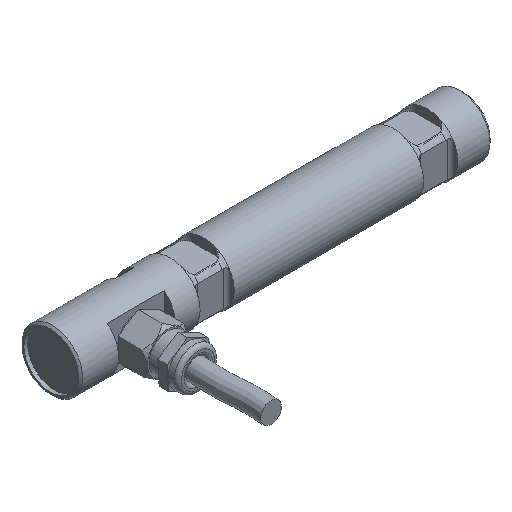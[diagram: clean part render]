
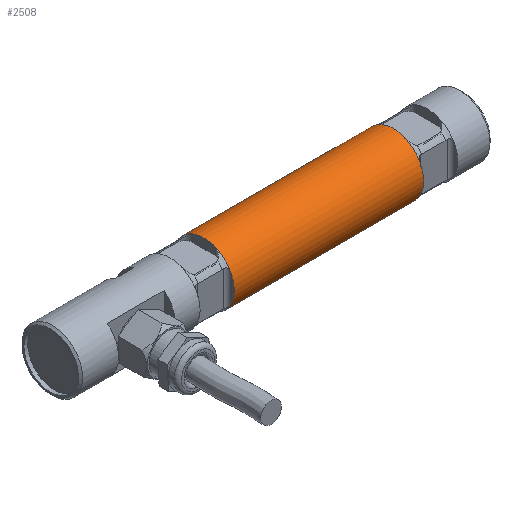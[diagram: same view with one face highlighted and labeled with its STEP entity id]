
A CAD part, isometric view. The second image highlights one B-rep face of the part: STEP entity #2508.
In plain terms, the highlighted cylindrical face has radius 8 mm (diameter 16 mm), a full revolution.
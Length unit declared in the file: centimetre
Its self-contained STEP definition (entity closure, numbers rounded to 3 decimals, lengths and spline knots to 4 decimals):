
#997=CYLINDRICAL_SURFACE('',#2543,0.8);
#1070=VERTEX_POINT('',#2804);
#1071=VERTEX_POINT('',#2819);
#1087=VERTEX_POINT('',#3081);
#1088=VERTEX_POINT('',#3082);
#1098=VERTEX_POINT('',#3189);
#1099=VERTEX_POINT('',#3203);
#1115=VERTEX_POINT('',#3460);
#1116=VERTEX_POINT('',#3461);
#1118=VERTEX_POINT('',#3538);
#1128=VERTEX_POINT('',#3587);
#1136=VERTEX_POINT('',#3646);
#1141=VERTEX_POINT('',#3776);
#1155=VERTEX_POINT('',#3959);
#1162=VERTEX_POINT('',#4022);
#1167=VERTEX_POINT('',#4095);
#1173=VERTEX_POINT('',#4198);
#1230=CIRCLE('',#2569,0.8);
#1241=CIRCLE('',#2602,0.8);
#1309=EDGE_CURVE('',#1070,#1071,#1230,.T.);
#1336=EDGE_CURVE('',#1071,#1087,#1230,.T.);
#1337=EDGE_CURVE('',#1088,#1070,#1230,.T.);
#1352=EDGE_CURVE('',#1098,#1099,#1230,.T.);
#1379=EDGE_CURVE('',#1099,#1115,#1230,.T.);
#1380=EDGE_CURVE('',#1116,#1098,#1230,.T.);
#1397=EDGE_CURVE('',#1128,#1118,#1241,.T.);
#1410=EDGE_CURVE('',#1136,#1128,#1241,.T.);
#1417=EDGE_CURVE('',#1118,#1141,#1241,.T.);
#1451=EDGE_CURVE('',#1155,#1162,#1241,.T.);
#1458=EDGE_CURVE('',#1167,#1155,#1241,.T.);
#1461=EDGE_CURVE('',#1115,#1088,#1230,.T.);
#1469=EDGE_CURVE('',#1087,#1116,#1230,.T.);
#1476=EDGE_CURVE('',#1173,#1136,#1241,.T.);
#1482=EDGE_CURVE('',#1141,#1167,#1241,.T.);
#1487=EDGE_CURVE('',#1162,#1173,#1241,.T.);
#1985=ORIENTED_EDGE('',*,*,#1482,.T.);
#1986=ORIENTED_EDGE('',*,*,#1458,.T.);
#1987=ORIENTED_EDGE('',*,*,#1451,.T.);
#1988=ORIENTED_EDGE('',*,*,#1487,.T.);
#1989=ORIENTED_EDGE('',*,*,#1476,.T.);
#1990=ORIENTED_EDGE('',*,*,#1410,.T.);
#1991=ORIENTED_EDGE('',*,*,#1397,.T.);
#1992=ORIENTED_EDGE('',*,*,#1417,.T.);
#1993=ORIENTED_EDGE('',*,*,#1461,.T.);
#1994=ORIENTED_EDGE('',*,*,#1337,.T.);
#1995=ORIENTED_EDGE('',*,*,#1309,.T.);
#1996=ORIENTED_EDGE('',*,*,#1336,.T.);
#1997=ORIENTED_EDGE('',*,*,#1469,.T.);
#1998=ORIENTED_EDGE('',*,*,#1380,.T.);
#1999=ORIENTED_EDGE('',*,*,#1352,.T.);
#2000=ORIENTED_EDGE('',*,*,#1379,.T.);
#2211=EDGE_LOOP('',(#1985,#1986,#1987,#1988,#1989,#1990,#1991,#1992));
#2212=EDGE_LOOP('',(#1993,#1994,#1995,#1996,#1997,#1998,#1999,#2000));
#2364=FACE_BOUND('',#2211,.T.);
#2365=FACE_BOUND('',#2212,.T.);
#2508=ADVANCED_FACE('',(#2364,#2365),#997,.T.);
#2543=AXIS2_PLACEMENT_3D('',#2707,#4670,#4671);
#2569=AXIS2_PLACEMENT_3D('',#2818,#4726,#4727);
#2602=AXIS2_PLACEMENT_3D('',#3586,#4813,#4814);
#2707=CARTESIAN_POINT('',(-2.5,0.,0.));
#2804=CARTESIAN_POINT('',(6.55,0.3,-0.7416));
#2818=CARTESIAN_POINT('',(6.55,0.,0.));
#2819=CARTESIAN_POINT('',(6.55,-0.3,-0.7416));
#3081=CARTESIAN_POINT('',(6.55,-0.72,-0.3487));
#3082=CARTESIAN_POINT('',(6.55,0.72,-0.3487));
#3189=CARTESIAN_POINT('',(6.55,-0.3,0.7416));
#3203=CARTESIAN_POINT('',(6.55,0.3,0.7416));
#3460=CARTESIAN_POINT('',(6.55,0.72,0.3487));
#3461=CARTESIAN_POINT('',(6.55,-0.72,0.3487));
#3538=CARTESIAN_POINT('',(1.55,0.3,-0.7416));
#3586=CARTESIAN_POINT('',(1.55,0.,0.));
#3587=CARTESIAN_POINT('',(1.55,-0.3,-0.7416));
#3646=CARTESIAN_POINT('',(1.55,-0.72,-0.3487));
#3776=CARTESIAN_POINT('',(1.55,0.72,-0.3487));
#3959=CARTESIAN_POINT('',(1.55,0.3,0.7416));
#4022=CARTESIAN_POINT('',(1.55,-0.3,0.7416));
#4095=CARTESIAN_POINT('',(1.55,0.72,0.3487));
#4198=CARTESIAN_POINT('',(1.55,-0.72,0.3487));
#4670=DIRECTION('',(1.,0.,0.));
#4671=DIRECTION('',(0.,0.,-0.8));
#4726=DIRECTION('',(-1.,0.,0.));
#4727=DIRECTION('',(0.,0.,-0.8));
#4813=DIRECTION('',(1.,0.,0.));
#4814=DIRECTION('',(0.,0.,-0.8));
